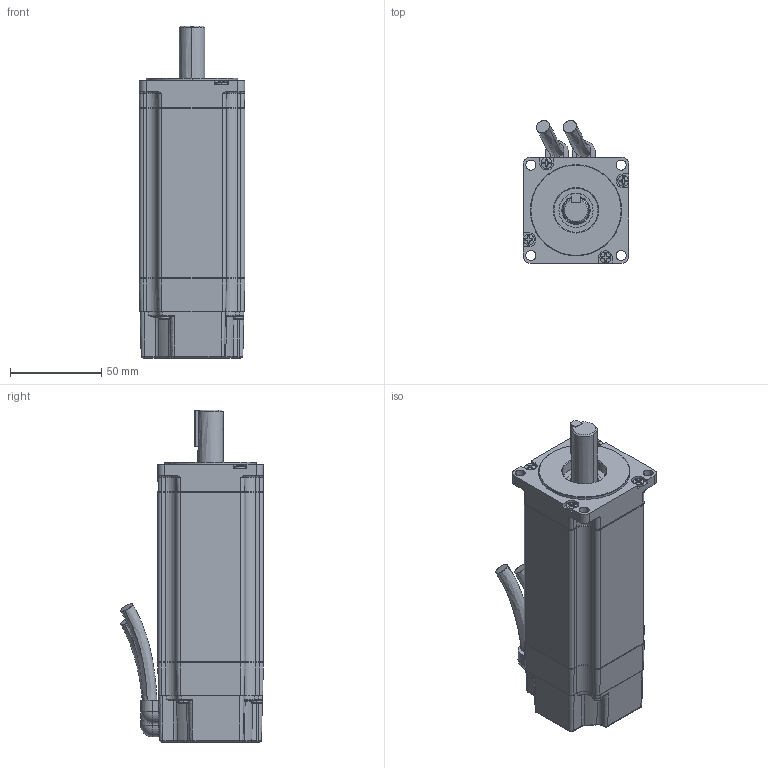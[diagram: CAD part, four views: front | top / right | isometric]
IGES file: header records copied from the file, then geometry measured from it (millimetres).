
Start section:  PTC IGES file: vlm23c.igs
Global section: file name: vlm23c.igs; native system: Pro/ENGINEER by Parametric Technology Corporation; preprocessor: 2006510; author: Ray.Dobbins; organization: Unknown; date: 20110715.130730; units: inch
Bounding box: 57.91 x 78.26 x 181.77 mm (x, y, z)
Surface area: 47706.4 mm2 (no closed solid volume)
Topology: 0 solids, 0 shells, 512 faces, 2576 edges, 2572 vertices
Faces by surface type: bspline 261, revolution 251
